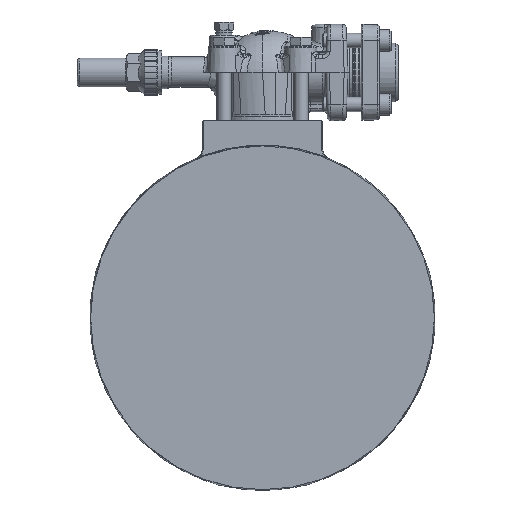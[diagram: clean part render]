
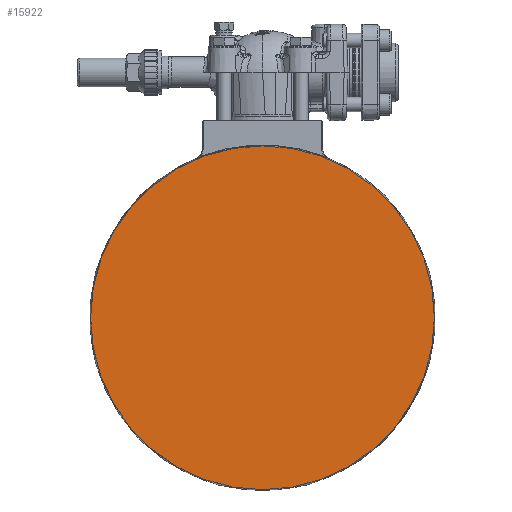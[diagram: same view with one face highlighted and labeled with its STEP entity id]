
A CAD part, left-side view. The second image highlights one B-rep face of the part: STEP entity #15922.
In plain terms, the highlighted planar face has unit normal (-1, 0, 0) as drawn and (1, 0, 0) by its records, which use the part's own axes.
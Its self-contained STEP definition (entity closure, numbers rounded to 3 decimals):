
#12631=PLANE('',#54748);
#15922=ADVANCED_FACE('',(#18597),#12631,.F.);
#18597=FACE_OUTER_BOUND('',#21338,.T.);
#21338=EDGE_LOOP('',(#37156));
#37156=ORIENTED_EDGE('',*,*,#49361,.T.);
#44313=VERTEX_POINT('',#96911);
#49361=EDGE_CURVE('',#44313,#44313,#52325,.T.);
#52325=CIRCLE('',#54747,142.99);
#54747=AXIS2_PLACEMENT_3D('',#96910,#61357,#61358);
#54748=AXIS2_PLACEMENT_3D('',#96912,#61359,#61360);
#61357=DIRECTION('',(1.,0.,0.));
#61358=DIRECTION('',(0.,0.,1.));
#61359=DIRECTION('',(-1.,0.,0.));
#61360=DIRECTION('',(0.,-1.,0.));
#96910=CARTESIAN_POINT('',(1.,0.,0.));
#96911=CARTESIAN_POINT('',(1.,0.,142.99));
#96912=CARTESIAN_POINT('',(1.,201.535,-222.821));
